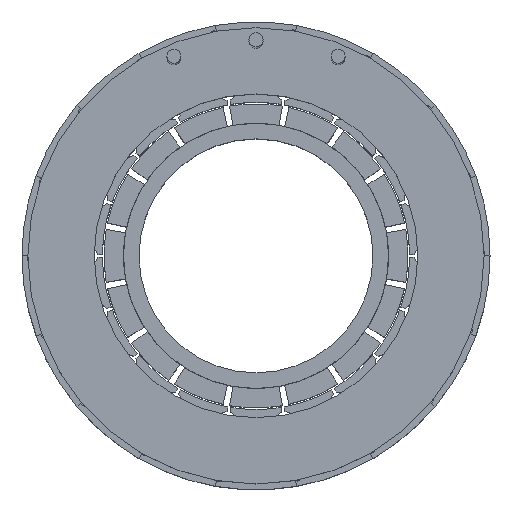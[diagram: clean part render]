
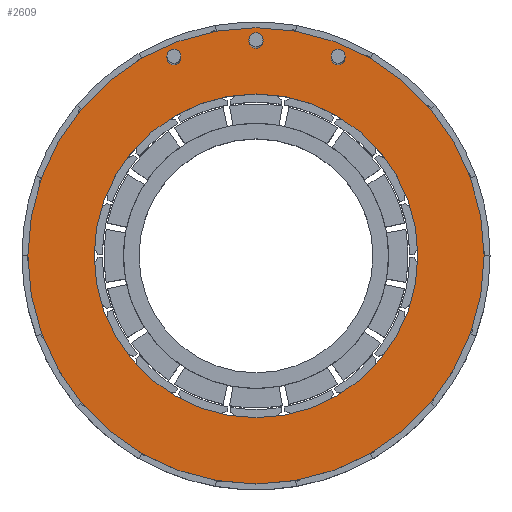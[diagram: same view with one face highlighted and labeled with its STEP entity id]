
A CAD part, top view. The second image highlights one B-rep face of the part: STEP entity #2609.
In plain terms, the highlighted planar face has unit normal (0, 0, 1).
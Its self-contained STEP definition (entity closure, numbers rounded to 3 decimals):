
#2 = VERTEX_POINT ( 'NONE', #901 ) ;
#42 = DIRECTION ( 'NONE',  ( 1., 0., 0. ) ) ;
#108 = AXIS2_PLACEMENT_3D ( 'NONE', #2224, #3057, #1260 ) ;
#122 = EDGE_CURVE ( 'NONE', #385, #561, #1508, .T. ) ;
#137 = CARTESIAN_POINT ( 'NONE',  ( 10.524, 25.407, 22.7 ) ) ;
#183 = FACE_BOUND ( 'NONE', #851, .T. ) ;
#188 = VERTEX_POINT ( 'NONE', #1637 ) ;
#210 = ORIENTED_EDGE ( 'NONE', *, *, #1235, .F. ) ;
#228 = DIRECTION ( 'NONE',  ( 0., 0., 1. ) ) ;
#241 = VERTEX_POINT ( 'NONE', #1453 ) ;
#244 = CARTESIAN_POINT ( 'NONE',  ( -20.75, 0., 22.7 ) ) ;
#259 = CARTESIAN_POINT ( 'NONE',  ( 10.524, 25.407, 22.7 ) ) ;
#260 = CIRCLE ( 'NONE', #2184, 20.75 ) ;
#287 = CARTESIAN_POINT ( 'NONE',  ( 0., 0., 22.7 ) ) ;
#290 = ORIENTED_EDGE ( 'NONE', *, *, #2422, .F. ) ;
#313 = CIRCLE ( 'NONE', #2452, 0.9 ) ;
#320 = EDGE_LOOP ( 'NONE', ( #2361, #210 ) ) ;
#331 = VERTEX_POINT ( 'NONE', #244 ) ;
#366 = CARTESIAN_POINT ( 'NONE',  ( -11.424, 25.407, 22.7 ) ) ;
#385 = VERTEX_POINT ( 'NONE', #2012 ) ;
#408 = CARTESIAN_POINT ( 'NONE',  ( -10.524, 25.407, 22.7 ) ) ;
#424 = DIRECTION ( 'NONE',  ( 1., 0., 0. ) ) ;
#431 = FACE_BOUND ( 'NONE', #2647, .T. ) ;
#461 = DIRECTION ( 'NONE',  ( 1., 0., 0. ) ) ;
#478 = EDGE_CURVE ( 'NONE', #331, #2, #260, .T. ) ;
#516 = DIRECTION ( 'NONE',  ( 0., 0., 1. ) ) ;
#549 = CARTESIAN_POINT ( 'NONE',  ( 29.25, 0., 22.7 ) ) ;
#561 = VERTEX_POINT ( 'NONE', #366 ) ;
#615 = CARTESIAN_POINT ( 'NONE',  ( -0.9, 27.5, 22.7 ) ) ;
#695 = FACE_BOUND ( 'NONE', #1536, .T. ) ;
#784 = AXIS2_PLACEMENT_3D ( 'NONE', #287, #1062, #2277 ) ;
#819 = ORIENTED_EDGE ( 'NONE', *, *, #2298, .T. ) ;
#823 = EDGE_CURVE ( 'NONE', #2118, #188, #313, .T. ) ;
#836 = CIRCLE ( 'NONE', #784, 29.25 ) ;
#851 = EDGE_LOOP ( 'NONE', ( #2172, #958 ) ) ;
#884 = DIRECTION ( 'NONE',  ( 1., 0., 0. ) ) ;
#901 = CARTESIAN_POINT ( 'NONE',  ( 20.75, 0., 22.7 ) ) ;
#903 = CARTESIAN_POINT ( 'NONE',  ( -29.25, 0., 22.7 ) ) ;
#958 = ORIENTED_EDGE ( 'NONE', *, *, #122, .F. ) ;
#985 = AXIS2_PLACEMENT_3D ( 'NONE', #259, #228, #2218 ) ;
#994 = CIRCLE ( 'NONE', #2039, 0.9 ) ;
#1062 = DIRECTION ( 'NONE',  ( 0., 0., 1. ) ) ;
#1138 = VERTEX_POINT ( 'NONE', #549 ) ;
#1149 = CIRCLE ( 'NONE', #985, 0.9 ) ;
#1159 = EDGE_CURVE ( 'NONE', #1138, #2420, #836, .T. ) ;
#1235 = EDGE_CURVE ( 'NONE', #2, #331, #2834, .T. ) ;
#1260 = DIRECTION ( 'NONE',  ( 1., 0., 0. ) ) ;
#1309 = EDGE_CURVE ( 'NONE', #188, #2118, #1149, .T. ) ;
#1389 = DIRECTION ( 'NONE',  ( 0., 0., 1. ) ) ;
#1444 = DIRECTION ( 'NONE',  ( 0., 0., 1. ) ) ;
#1449 = EDGE_LOOP ( 'NONE', ( #819, #2447 ) ) ;
#1453 = CARTESIAN_POINT ( 'NONE',  ( 0.9, 27.5, 22.7 ) ) ;
#1491 = FACE_BOUND ( 'NONE', #320, .T. ) ;
#1508 = CIRCLE ( 'NONE', #2344, 0.9 ) ;
#1521 = CARTESIAN_POINT ( 'NONE',  ( 0., 27.5, 22.7 ) ) ;
#1536 = EDGE_LOOP ( 'NONE', ( #1583, #2220 ) ) ;
#1574 = VERTEX_POINT ( 'NONE', #615 ) ;
#1583 = ORIENTED_EDGE ( 'NONE', *, *, #1309, .F. ) ;
#1637 = CARTESIAN_POINT ( 'NONE',  ( 9.624, 25.407, 22.7 ) ) ;
#1739 = DIRECTION ( 'NONE',  ( 0., 0., 1. ) ) ;
#1785 = CARTESIAN_POINT ( 'NONE',  ( 0., 0., 22.7 ) ) ;
#1833 = DIRECTION ( 'NONE',  ( 0., 0., 1. ) ) ;
#1850 = DIRECTION ( 'NONE',  ( 1., 0., 0. ) ) ;
#2012 = CARTESIAN_POINT ( 'NONE',  ( -9.624, 25.407, 22.7 ) ) ;
#2039 = AXIS2_PLACEMENT_3D ( 'NONE', #1521, #2548, #42 ) ;
#2118 = VERTEX_POINT ( 'NONE', #2316 ) ;
#2126 = DIRECTION ( 'NONE',  ( 0., 0., 1. ) ) ;
#2127 = CARTESIAN_POINT ( 'NONE',  ( 0., 27.5, 22.7 ) ) ;
#2136 = DIRECTION ( 'NONE',  ( 0., 0., 1. ) ) ;
#2142 = CARTESIAN_POINT ( 'NONE',  ( 0., 0., 22.7 ) ) ;
#2172 = ORIENTED_EDGE ( 'NONE', *, *, #2767, .F. ) ;
#2174 = PLANE ( 'NONE',  #2787 ) ;
#2184 = AXIS2_PLACEMENT_3D ( 'NONE', #1785, #516, #2819 ) ;
#2190 = CIRCLE ( 'NONE', #2518, 29.25 ) ;
#2194 = CIRCLE ( 'NONE', #108, 0.9 ) ;
#2218 = DIRECTION ( 'NONE',  ( 1., 0., 0. ) ) ;
#2220 = ORIENTED_EDGE ( 'NONE', *, *, #823, .F. ) ;
#2224 = CARTESIAN_POINT ( 'NONE',  ( -10.524, 25.407, 22.7 ) ) ;
#2277 = DIRECTION ( 'NONE',  ( 1., 0., 0. ) ) ;
#2298 = EDGE_CURVE ( 'NONE', #2420, #1138, #2190, .T. ) ;
#2316 = CARTESIAN_POINT ( 'NONE',  ( 11.424, 25.407, 22.7 ) ) ;
#2344 = AXIS2_PLACEMENT_3D ( 'NONE', #408, #2136, #424 ) ;
#2361 = ORIENTED_EDGE ( 'NONE', *, *, #478, .F. ) ;
#2420 = VERTEX_POINT ( 'NONE', #903 ) ;
#2422 = EDGE_CURVE ( 'NONE', #241, #1574, #2934, .T. ) ;
#2447 = ORIENTED_EDGE ( 'NONE', *, *, #1159, .T. ) ;
#2452 = AXIS2_PLACEMENT_3D ( 'NONE', #137, #2126, #2733 ) ;
#2518 = AXIS2_PLACEMENT_3D ( 'NONE', #2142, #1389, #1850 ) ;
#2548 = DIRECTION ( 'NONE',  ( 0., 0., 1. ) ) ;
#2551 = ORIENTED_EDGE ( 'NONE', *, *, #2948, .F. ) ;
#2609 = ADVANCED_FACE ( 'NONE', ( #183, #695, #431, #3179, #1491 ), #2174, .T. ) ;
#2647 = EDGE_LOOP ( 'NONE', ( #2551, #290 ) ) ;
#2733 = DIRECTION ( 'NONE',  ( 1., 0., 0. ) ) ;
#2756 = DIRECTION ( 'NONE',  ( 1., 0., 0. ) ) ;
#2767 = EDGE_CURVE ( 'NONE', #561, #385, #2194, .T. ) ;
#2787 = AXIS2_PLACEMENT_3D ( 'NONE', #3196, #1444, #461 ) ;
#2819 = DIRECTION ( 'NONE',  ( 1., 0., 0. ) ) ;
#2834 = CIRCLE ( 'NONE', #3032, 20.75 ) ;
#2934 = CIRCLE ( 'NONE', #3141, 0.9 ) ;
#2948 = EDGE_CURVE ( 'NONE', #1574, #241, #994, .T. ) ;
#2987 = CARTESIAN_POINT ( 'NONE',  ( 0., 0., 22.7 ) ) ;
#3032 = AXIS2_PLACEMENT_3D ( 'NONE', #2987, #1739, #2756 ) ;
#3057 = DIRECTION ( 'NONE',  ( 0., 0., 1. ) ) ;
#3141 = AXIS2_PLACEMENT_3D ( 'NONE', #2127, #1833, #884 ) ;
#3179 = FACE_OUTER_BOUND ( 'NONE', #1449, .T. ) ;
#3196 = CARTESIAN_POINT ( 'NONE',  ( 0., 0., 22.7 ) ) ;
